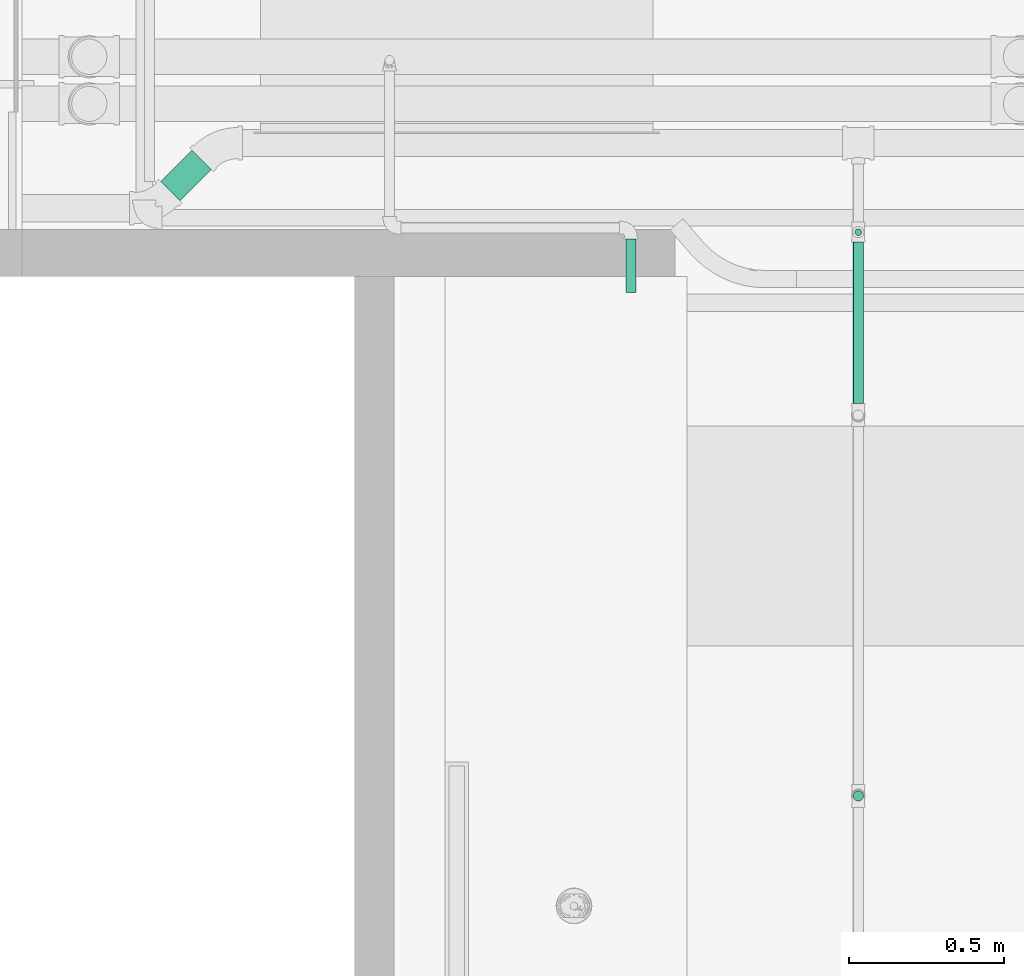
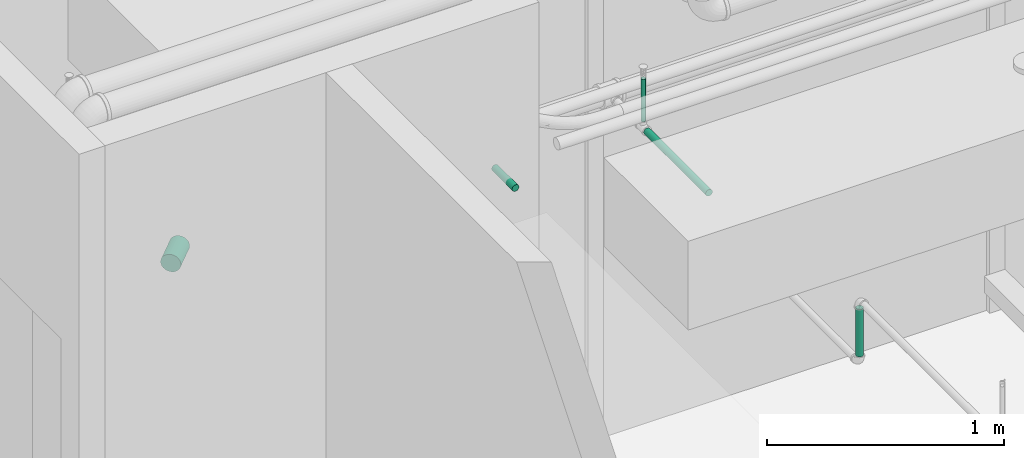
# One storey, part 48 of 108: 5 pipe segments.
"""IFC4 building model written with IfcOpenShell, lengths in feet."""

from ifc_helpers import new_model, entity, si_unit, converted_unit, derived_unit, direction, frame, frame_2d, origin, origin_2d_with_axis, place, context, subcontext, project, spatial, circle, extrude, type_object, element, save


model = new_model("IFC4")

# Units and contexts
model_context = context("Model", 3, precision=0.0001, world=origin(), true_north=direction((6.12303176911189e-17, 1.0)))
body_context = subcontext(model_context, "Body", "Model", "MODEL_VIEW")
ifc_project = project(units=[converted_unit("LENGTHUNIT", "FOOT", entity("IfcRatioMeasure", 0.3048), si_unit("LENGTHUNIT", "METRE"), dimensions=[1, 0, 0, 0, 0, 0, 0]), converted_unit("AREAUNIT", "SQUARE FOOT", entity("IfcRatioMeasure", 0.09290304), si_unit("AREAUNIT", "SQUARE_METRE"), dimensions=[2, 0, 0, 0, 0, 0, 0]), converted_unit("VOLUMEUNIT", "CUBIC FOOT", entity("IfcRatioMeasure", 0.028316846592), si_unit("VOLUMEUNIT", "CUBIC_METRE"), dimensions=[3, 0, 0, 0, 0, 0, 0]), converted_unit("PLANEANGLEUNIT", "DEGREE", entity("IfcRatioMeasure", 0.0174532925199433), si_unit("PLANEANGLEUNIT", "RADIAN"), dimensions=[0, 0, 0, 0, 0, 0, 0]), si_unit("MASSUNIT", "GRAM", prefix="KILO"), derived_unit("MASSDENSITYUNIT", [(si_unit("MASSUNIT", "GRAM", prefix="KILO"), 1), (si_unit("LENGTHUNIT", "METRE"), -3)]), si_unit("TIMEUNIT", "SECOND"), si_unit("FREQUENCYUNIT", "HERTZ"), si_unit("THERMODYNAMICTEMPERATUREUNIT", "DEGREE_CELSIUS"), derived_unit("THERMALTRANSMITTANCEUNIT", [(si_unit("MASSUNIT", "GRAM", prefix="KILO"), 1), (si_unit("THERMODYNAMICTEMPERATUREUNIT", "KELVIN"), -1), (si_unit("TIMEUNIT", "SECOND"), -3)]), derived_unit("VOLUMETRICFLOWRATEUNIT", [(si_unit("LENGTHUNIT", "METRE"), 3), (si_unit("TIMEUNIT", "SECOND"), -1)]), si_unit("ELECTRICCURRENTUNIT", "AMPERE"), si_unit("ELECTRICVOLTAGEUNIT", "VOLT"), si_unit("POWERUNIT", "WATT"), si_unit("FORCEUNIT", "NEWTON"), si_unit("ILLUMINANCEUNIT", "LUX"), si_unit("LUMINOUSFLUXUNIT", "LUMEN"), si_unit("LUMINOUSINTENSITYUNIT", "CANDELA"), derived_unit("USERDEFINED", [(si_unit("MASSUNIT", "GRAM", prefix="KILO"), -1), (si_unit("LENGTHUNIT", "METRE"), -2), (si_unit("TIMEUNIT", "SECOND"), 3), (si_unit("LUMINOUSFLUXUNIT", "LUMEN"), 1)]), derived_unit("LINEARVELOCITYUNIT", [(si_unit("LENGTHUNIT", "METRE"), 1), (si_unit("TIMEUNIT", "SECOND"), -1)]), si_unit("PRESSUREUNIT", "PASCAL"), derived_unit("USERDEFINED", [(si_unit("LENGTHUNIT", "METRE"), -2), (si_unit("MASSUNIT", "GRAM", prefix="KILO"), 1), (si_unit("TIMEUNIT", "SECOND"), -2)])], contexts=[model_context])

# Site, building, storey
site_placement = place(None, origin())
site = spatial("IfcSite", under=ifc_project, at=site_placement, Name="Default", CompositionType="ELEMENT")
building_placement = place(site_placement, origin())
building = spatial("IfcBuilding", under=site, at=building_placement, CompositionType="ELEMENT")
storey_placement = place(building_placement, frame((0.0, 0.0, 168.0)))
storey = spatial("IfcBuildingStorey", under=building, at=storey_placement, Name="Level 15", CompositionType="ELEMENT", Elevation=168.0)

# Pipe segments
pipe_segment_type = type_object("IfcPipeSegmentType", Name="Pipe Types:Fire Prot Sched 10 Main", PredefinedType="NOTDEFINED")
pipe_segment_1_placement = place(storey_placement, frame((-50.8574057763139, 4.2247304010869, 8.7878776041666)))
element("IfcPipeSegment", 1, at=pipe_segment_1_placement, inside=storey, type_object=pipe_segment_type, Name="Pipe Types:Fire Prot Sched 10 Main", ObjectType="Pipe Types:Fire Prot Sched 10 Main", PredefinedType="NOTDEFINED", context=body_context, shape_type="SweptSolid", body=[
    extrude(circle(Radius=0.0547916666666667, at=frame_2d((-7.105427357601e-15, 0.0), x_axis=(1.0, 0.0))), frame((0.0600254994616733, 0.0600254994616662, 0.0)), (0.0, 0.0, 1.0), 0.799244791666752),
])
pipe_segment_2_placement = place(storey_placement, frame((-50.837614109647, 10.2281857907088, 9.116469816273)))
element("IfcPipeSegment", 2, at=pipe_segment_2_placement, inside=storey, type_object=pipe_segment_type, Name="Pipe Types:Fire Prot Sched 10 Main", ObjectType="Pipe Types:Fire Prot Sched 10 Main", PredefinedType="NOTDEFINED", context=body_context, shape_type="SweptSolid", body=[
    extrude(circle(Radius=0.035, at=origin_2d_with_axis()), frame((0.0402338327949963, 0.0402338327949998, 0.0)), (0.0, 0.0, 1.0), 0.716863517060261),
])
pipe_segment_3_placement = place(storey_placement, frame((-50.8574057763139, 8.44763350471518, 8.93997450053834)))
element("IfcPipeSegment", 3, at=pipe_segment_3_placement, inside=storey, type_object=pipe_segment_type, Name="Pipe Types:Fire Prot Sched 10 Main", ObjectType="Pipe Types:Fire Prot Sched 10 Main", PredefinedType="NOTDEFINED", context=body_context, shape_type="SweptSolid", body=[
    extrude(circle(Radius=0.0547916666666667, at=frame_2d((-8.5265128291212e-14, 0.0), x_axis=(1.0, 0.0))), frame((0.0600254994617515, 0.0, 0.0600254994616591), z_axis=(0.0, 1.0, 0.0), x_axis=(-1.0, 0.0, 0.0)), (0.0, 0.0, 1.0), 1.71579924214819),
])
pipe_segment_4_placement = place(storey_placement, frame((-58.2068857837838, 10.5937543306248, 8.84893283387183)))
element("IfcPipeSegment", 4, at=pipe_segment_4_placement, inside=storey, type_object=pipe_segment_type, Name="Pipe Types:Fire Prot Sched 10 Main", ObjectType="Pipe Types:Fire Prot Sched 10 Main", PredefinedType="NOTDEFINED", context=body_context, shape_type="SweptSolid", body=[
    extrude(circle(Radius=0.145833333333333, at=frame_2d((0.0, 2.8421709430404e-14), x_axis=(1.0, 0.0))), frame((0.108353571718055, 0.108353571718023, 0.151067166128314), z_axis=(0.707106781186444, 0.707106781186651, 0.0), x_axis=(-0.707106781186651, 0.707106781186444, 0.0)), (0.0, 0.0, 1.0), 0.47074350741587),
])
pipe_segment_5_placement = place(storey_placement, frame((-53.2690874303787, 9.62694750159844, 9.14830783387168)))
element("IfcPipeSegment", 5, at=pipe_segment_5_placement, inside=storey, type_object=pipe_segment_type, Name="Pipe Types:Fire Prot Sched 10 Main", ObjectType="Pipe Types:Fire Prot Sched 10 Main", PredefinedType="NOTDEFINED", context=body_context, shape_type="SweptSolid", body=[
    extrude(circle(Radius=0.0547916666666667, at=origin_2d_with_axis()), frame((0.0600254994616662, 0.0, 0.0600254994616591), z_axis=(0.0, 1.0, 0.0), x_axis=(-1.0, 0.0, 0.0)), (0.0, 0.0, 1.0), 0.566289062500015),
])

save(model, "model.ifc")
